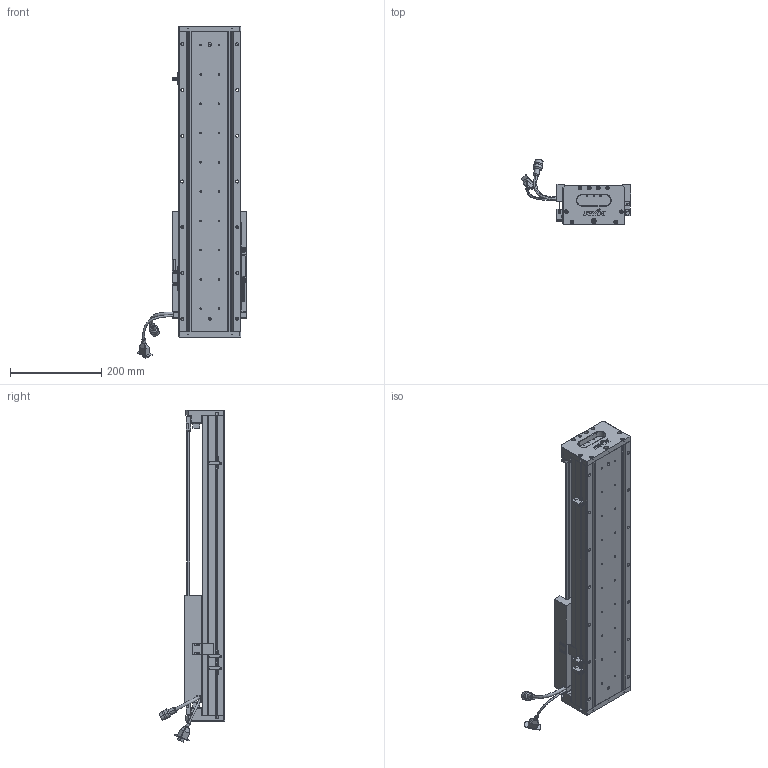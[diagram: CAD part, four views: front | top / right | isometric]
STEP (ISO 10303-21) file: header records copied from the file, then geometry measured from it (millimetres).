
FILE_DESCRIPTION (( 'STEP AP203' ), '1' );
FILE_NAME ('Z3-RY140D-1-L500-B-K.SLDASM_0350.step', '2021-05-17T08:00:05', ( '盈信电脑' ), ( '东莞市道滘镇水果街19号' ), 'SwSTEP 2.0', 'SolidWorks 2016', '' );
FILE_SCHEMA (( 'CONFIG_CONTROL_DESIGN' ));
Length unit declared in the file: millimetre
Products named in the file (36): 140-Z-臏賑輸盄裔(21遴); COVER-Part-1; SCREW-M1.6-2; SEAL; Z-RY140詩湍奻揤裔; COVER; SCREW-M1.6; SHIELDPLATE; 榋妏寠巭燃_暯_M2_2; LABEL-Part-1; 080黍杅芛假蚾釱21遴; SCREW-M1.6-1; PBU_SHEET; Z-140詩湍傷裔啣; HARNESS-Part-1; SCREW-M1.7-1; HOLDER0; 140蚥薯蝶輸; Z3-RY140-L500詩湍100mm遵_0350; HARNESS; SCALE-Part-1; PSLH080_PSLF2; Z-RY140詩湍狟揤裔; Z3-RY140D-1-L500-B-K.SLDASM_0350; 覜茼ん672; SCALE-Part-2; Z-RY140感应器672光电感应片; LABEL; SEAL-Part-1; SCREW-M1.7; SCREW-M1.6-3; HARNESS-Part-2; Z3-RY140圉猾敕臏賑輸(21遴); 140雄赽晤鎢ん堤盄; Z3-RY140-L500直线电机模组底座_0350; SCALE
Assembly tree (41 placements, depth 4):
  Z3-RY140D-1-L500-B-K.SLDASM_0350
    Z3-RY140-L500直线电机模组底座_0350
    Z-RY140感应器672光电感应片
    Z3-RY140圉猾敕臏賑輸(21遴)
    覜茼ん672  x3
    Z3-RY140-L500詩湍100mm遵_0350
    PSLH080_PSLF2
      SCALE
        SCALE-Part-1
        SCALE-Part-2
      HARNESS
        HARNESS-Part-1
        HARNESS-Part-2
      LABEL
        LABEL-Part-1
      COVER
        COVER-Part-1
      SEAL
        SEAL-Part-1
      榋妏寠巭燃_暯_M2_2
      SHIELDPLATE
      SCREW-M1.7
      SCREW-M1.7-1
      PBU_SHEET
      SCREW-M1.6
      SCREW-M1.6-1
      SCREW-M1.6-2
      SCREW-M1.6-3
      HOLDER0
    080黍杅芛假蚾釱21遴
    140-Z-臏賑輸盄裔(21遴)
    Z-140詩湍傷裔啣  x2
    Z-RY140詩湍狟揤裔  x2
    Z-RY140詩湍奻揤裔  x2
    140蚥薯蝶輸  x2
    140雄赽晤鎢ん堤盄
Bounding box: 239.84 x 143.88 x 725.88 mm (x, y, z)
Volume: 3053125.8 mm3; surface area: 782158 mm2
Topology: 36 solids, 36 shells, 2738 faces, 7154 edges, 4529 vertices
Faces by surface type: cylinder 1240, plane 1102, cone 274, torus 69, bspline 53
Entity records: 78426 total; most frequent: CARTESIAN_POINT 19113, DIRECTION 11582, ORIENTED_EDGE 11484, EDGE_CURVE 5742, AXIS2_PLACEMENT_3D 4246, VERTEX_POINT 3697, LINE 3090, VECTOR 3090
